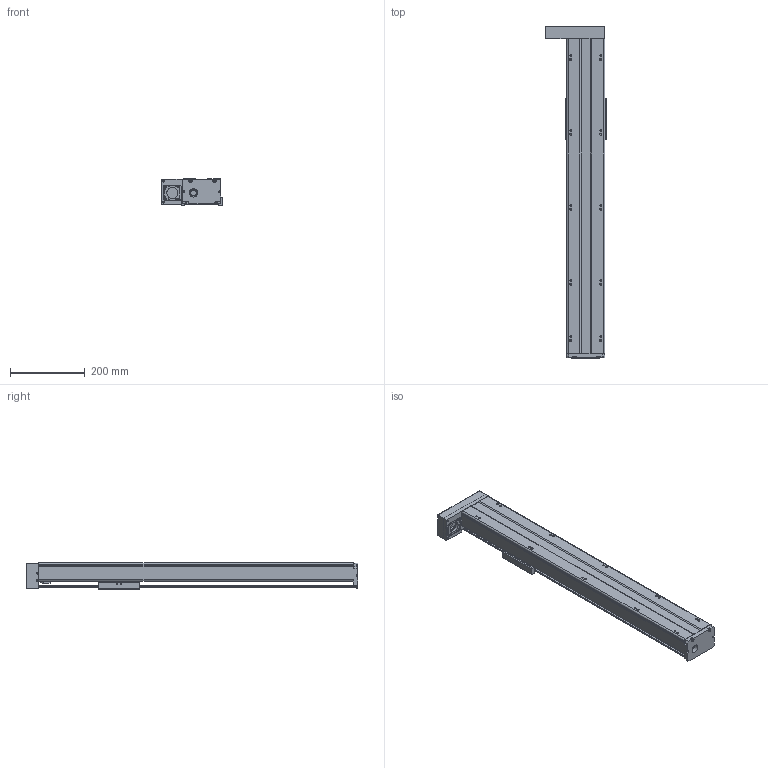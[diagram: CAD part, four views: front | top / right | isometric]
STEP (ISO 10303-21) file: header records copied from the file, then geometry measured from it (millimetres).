
FILE_DESCRIPTION(/* description */ (''),/* implementation_level */ '2;1');
FILE_NAME(/* name */ 'TKA100-FL-650_asm1.stp',/* time_stamp */ '2016-05-17T14:52:43+08:00',/* author */ (''),/* organization */ (''),/* preprocessor_version */ 'ST-DEVELOPER v15',/* originating_system */ 'SIEMENS PLM Software NX 8.5',/* authorisation */ '');
FILE_SCHEMA (('AUTOMOTIVE_DESIGN { 1 0 10303 214 3 1 1 1 }'));
Length unit declared in the file: millimetre
Products named in the file (3): 200-2; 200-1; TKA100-FL-650_asm1
Assembly tree (2 placements, depth 2):
  TKA100-FL-650_asm1
    200-1
    200-2
Bounding box: 162 x 886 x 71 mm (x, y, z)
Volume: 1925679.5 mm3; surface area: 656324.1 mm2
Topology: 2 solids, 16 shells, 792 faces, 2062 edges, 1340 vertices
Faces by surface type: plane 317, cylinder 300, cone 121, torus 28, bspline 26
Full cylindrical faces by diameter (mm): 2.5 x6, 2.6 x8, 3.3 x11, 3.4 x4, 3.8 x8, 4.2 x19, 4.3 x4, 4.5 x10, 5 x2, 5.5 x18, 6.6 x4, 8 x4, 9 x6, 10 x6, 11 x4, 12 x6, 15.3 x1, 16 x1, 22 x1, 24 x1, 28 x2, 30 x1, 33 x1
Entity records: 29172 total; most frequent: CARTESIAN_POINT 10722, DIRECTION 3777, ORIENTED_EDGE 3592, EDGE_CURVE 1796, AXIS2_PLACEMENT_3D 1487, VERTEX_POINT 1272, EDGE_LOOP 1093, LINE 803
